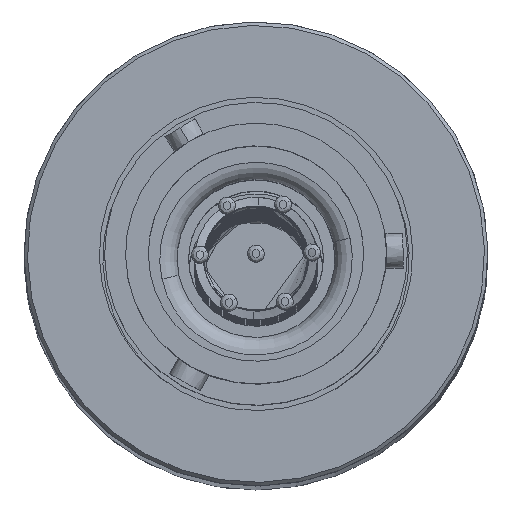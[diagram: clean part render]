
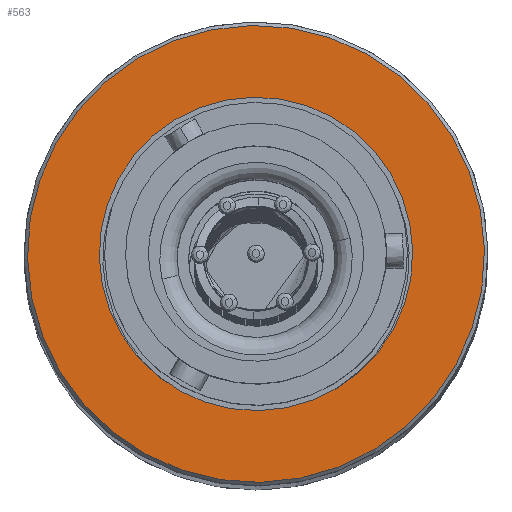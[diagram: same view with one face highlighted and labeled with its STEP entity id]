
A CAD part, top view. The second image highlights one B-rep face of the part: STEP entity #563.
In plain terms, the highlighted planar face has unit normal (0, 0, 1).
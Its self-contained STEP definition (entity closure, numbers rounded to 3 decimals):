
#563 = ADVANCED_FACE ( 'NONE', ( #13472, #8655 ), #18485, .T. ) ;
#688 = CIRCLE ( 'NONE', #15729, 13.05 ) ;
#901 = CARTESIAN_POINT ( 'NONE',  ( 0., 0., 794.919 ) ) ;
#1569 = CARTESIAN_POINT ( 'NONE',  ( 6.75, -11.169, 794.919 ) ) ;
#2286 = ORIENTED_EDGE ( 'NONE', *, *, #7642, .T. ) ;
#2481 = DIRECTION ( 'NONE',  ( 0., 0., -1. ) ) ;
#2836 = ORIENTED_EDGE ( 'NONE', *, *, #18424, .T. ) ;
#2877 = AXIS2_PLACEMENT_3D ( 'NONE', #5985, #2481, #17769 ) ;
#2909 = EDGE_LOOP ( 'NONE', ( #2286, #13131 ) ) ;
#3736 = DIRECTION ( 'NONE',  ( 0., 0., 1. ) ) ;
#4291 = DIRECTION ( 'NONE',  ( 0., 0., 1. ) ) ;
#5663 = VERTEX_POINT ( 'NONE', #12831 ) ;
#5985 = CARTESIAN_POINT ( 'NONE',  ( 0., 0., 794.919 ) ) ;
#6332 = CIRCLE ( 'NONE', #20989, 13.05 ) ;
#6925 = AXIS2_PLACEMENT_3D ( 'NONE', #11711, #3736, #16760 ) ;
#7479 = DIRECTION ( 'NONE',  ( 0., 0., -1. ) ) ;
#7642 = EDGE_CURVE ( 'NONE', #20463, #11243, #688, .T. ) ;
#7696 = DIRECTION ( 'NONE',  ( -0.517, 0.856, 0. ) ) ;
#8389 = VERTEX_POINT ( 'NONE', #19910 ) ;
#8655 = FACE_BOUND ( 'NONE', #10237, .T. ) ;
#9316 = CARTESIAN_POINT ( 'NONE',  ( 0., 0., 794.919 ) ) ;
#9888 = EDGE_CURVE ( 'NONE', #11243, #20463, #6332, .T. ) ;
#9893 = CIRCLE ( 'NONE', #11996, 8.95 ) ;
#10237 = EDGE_LOOP ( 'NONE', ( #20427, #2836 ) ) ;
#10952 = DIRECTION ( 'NONE',  ( -0.517, 0.856, 0. ) ) ;
#11243 = VERTEX_POINT ( 'NONE', #15544 ) ;
#11302 = DIRECTION ( 'NONE',  ( 0., 0., 1. ) ) ;
#11711 = CARTESIAN_POINT ( 'NONE',  ( -10.698, -6.466, 794.919 ) ) ;
#11996 = AXIS2_PLACEMENT_3D ( 'NONE', #901, #7479, #7696 ) ;
#12831 = CARTESIAN_POINT ( 'NONE',  ( -4.63, 7.66, 794.919 ) ) ;
#13131 = ORIENTED_EDGE ( 'NONE', *, *, #9888, .T. ) ;
#13472 = FACE_OUTER_BOUND ( 'NONE', #2909, .T. ) ;
#14160 = DIRECTION ( 'NONE',  ( -0.517, 0.856, 0. ) ) ;
#14583 = CARTESIAN_POINT ( 'NONE',  ( 0., 0., 794.919 ) ) ;
#15544 = CARTESIAN_POINT ( 'NONE',  ( -6.75, 11.169, 794.919 ) ) ;
#15729 = AXIS2_PLACEMENT_3D ( 'NONE', #14583, #11302, #14160 ) ;
#16760 = DIRECTION ( 'NONE',  ( -0.517, 0.856, 0. ) ) ;
#17272 = EDGE_CURVE ( 'NONE', #5663, #8389, #9893, .T. ) ;
#17769 = DIRECTION ( 'NONE',  ( -0.517, 0.856, 0. ) ) ;
#18424 = EDGE_CURVE ( 'NONE', #8389, #5663, #18584, .T. ) ;
#18485 = PLANE ( 'NONE',  #6925 ) ;
#18584 = CIRCLE ( 'NONE', #2877, 8.95 ) ;
#19910 = CARTESIAN_POINT ( 'NONE',  ( 4.63, -7.66, 794.919 ) ) ;
#20427 = ORIENTED_EDGE ( 'NONE', *, *, #17272, .T. ) ;
#20463 = VERTEX_POINT ( 'NONE', #1569 ) ;
#20989 = AXIS2_PLACEMENT_3D ( 'NONE', #9316, #4291, #10952 ) ;
